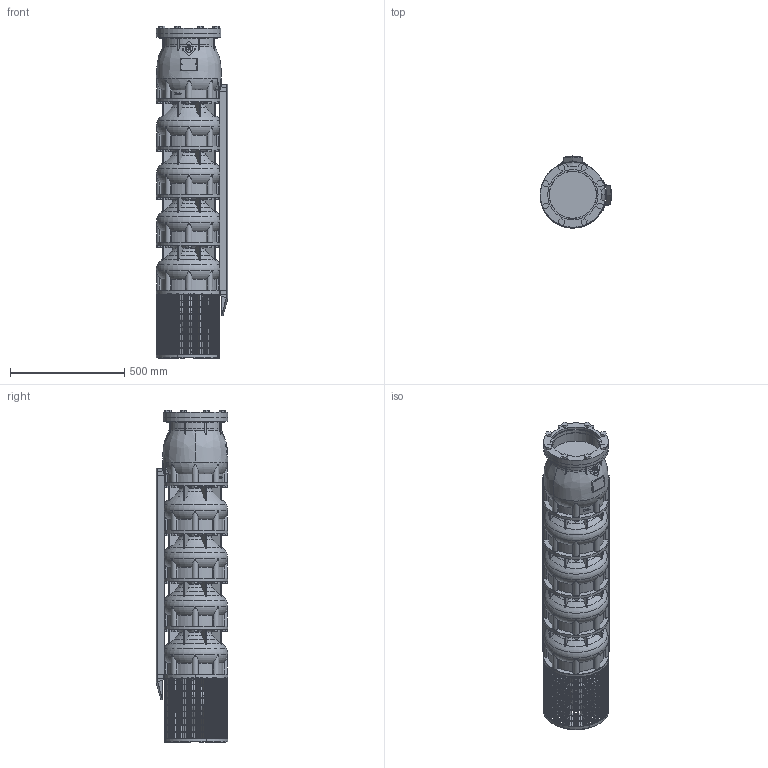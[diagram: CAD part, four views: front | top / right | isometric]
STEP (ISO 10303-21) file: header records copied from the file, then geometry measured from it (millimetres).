
FILE_DESCRIPTION(/* description */ ('-'),/* implementation_level */ '2;1');
FILE_NAME(/* name */ 'VSI344-4-1B_WF_M12-50_SLE',/* time_stamp */ '2026-01-21T11:44:12+01:00',/* author */ ('Simonelli M.'),/* organization */ ('Franklin Electric Srl'),/* preprocessor_version */ 'ST-DEVELOPER v18.102',/* originating_system */ 'Solid Edge',/* authorisation */ 'Unknown');
FILE_SCHEMA (('AUTOMOTIVE_DESIGN {1 0 10303 214 3 1 1}'));
Products named in the file (12): VSI344-4-1B_WF_M12-50_SLE; VSI344-454_testata; VSI344-454_supporto; VSI344-454_filtro_A; VSI344-454_filtro_B; VSI344-454_terminale_top_copricavo_medio; VSI344-454_terminale_bottom_copricavo_medio; MID 344-4; VSI344_diffusore; M5X8_UNI7687; VSI184-254_giunto_10×12; VSI344-454_flangia_testata
Assembly tree (28 placements, depth 2):
  VSI344-4-1B_WF_M12-50_SLE
    VSI344-454_testata
    VSI344-454_supporto
    VSI344-454_filtro_A
    VSI344-454_filtro_B
    VSI344-454_terminale_top_copricavo_medio  x2
    VSI344-454_terminale_bottom_copricavo_medio  x2
    MID 344-4  x2
    VSI344_diffusore  x4
    M5X8_UNI7687  x12
    VSI184-254_giunto_10×12
    VSI344-454_flangia_testata
Bounding box: 314.3 x 314.3 x 1455 mm (x, y, z)
Volume: 58770894 mm3; surface area: 3597095.8 mm2
Topology: 93 solids, 93 shells, 4479 faces, 12585 edges, 8359 vertices
Faces by surface type: plane 3574, cylinder 518, torus 263, cone 97, bspline 15, sphere 12
Full cylindrical faces by diameter (mm): 5 x12, 16 x8, 35 x1, 65 x1, 79 x1, 150 x1, 207 x1, 220.5 x1, 285 x4
Entity records: 124617 total; most frequent: CARTESIAN_POINT 28079, ORIENTED_EDGE 20264, DIRECTION 19374, EDGE_CURVE 10132, VERTEX_POINT 6757, AXIS2_PLACEMENT_3D 6545, LINE 6284, VECTOR 6284
